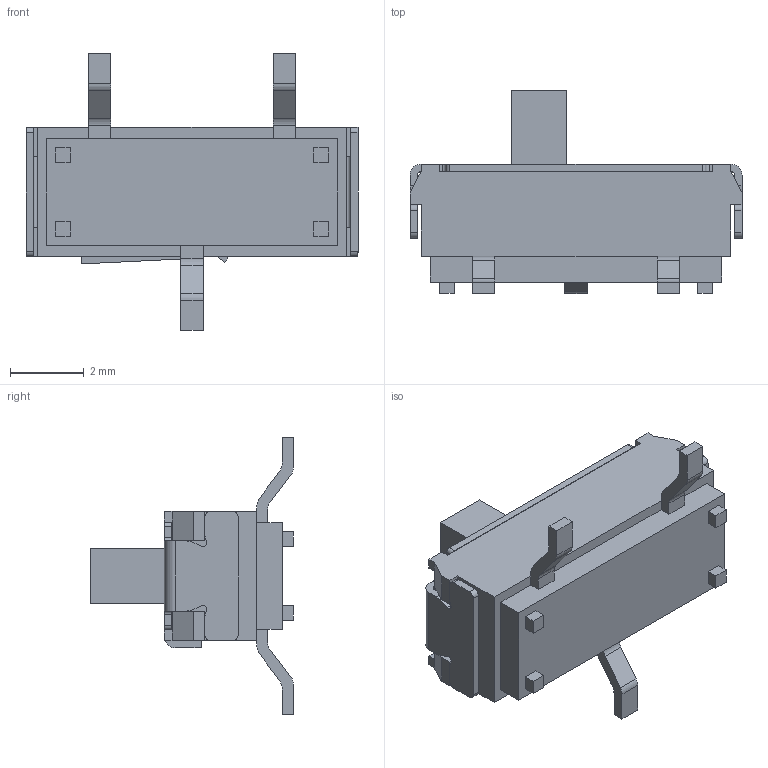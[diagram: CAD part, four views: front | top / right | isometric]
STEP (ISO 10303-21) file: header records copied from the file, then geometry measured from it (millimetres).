
FILE_DESCRIPTION (( 'STEP AP214' ), '1' );
FILE_NAME ('SWS025-020V12SSA_rev0.1.STEP', '2025-10-16T04:05:04', ( '' ), ( '' ), 'SwSTEP 2.0', 'SolidWorks 2024', '' );
FILE_SCHEMA (( 'AUTOMOTIVE_DESIGN' ));
Length unit declared in the file: millimetre
Products named in the file (2): SWS025-020V12SSA_rev0.1; SWS025
Assembly tree (1 placements, depth 2):
  SWS025-020V12SSA_rev0.1
    SWS025
Bounding box: 9 x 5.5 x 7.5 mm (x, y, z)
Volume: 96 mm3; surface area: 259.9 mm2
Topology: 2 solids, 2 shells, 231 faces, 646 edges, 418 vertices
Faces by surface type: plane 174, cylinder 57
Entity records: 8198 total; most frequent: CARTESIAN_POINT 1317, ORIENTED_EDGE 1292, DIRECTION 1220, EDGE_CURVE 646, VECTOR 530, LINE 530, VERTEX_POINT 418, AXIS2_PLACEMENT_3D 345
